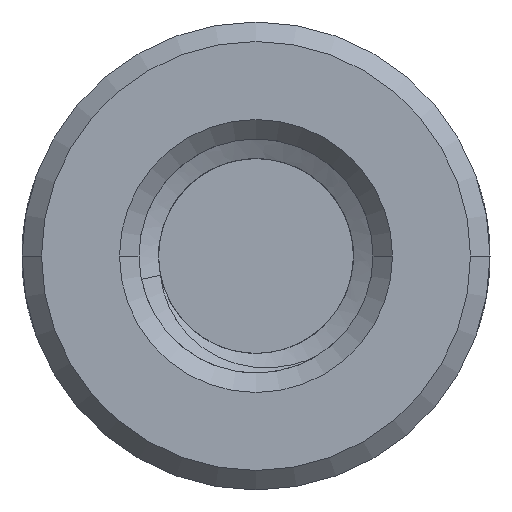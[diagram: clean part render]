
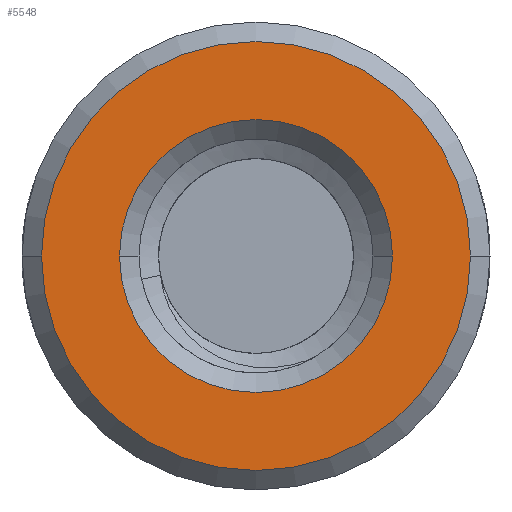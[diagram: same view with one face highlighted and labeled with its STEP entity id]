
A CAD part, front view. The second image highlights one B-rep face of the part: STEP entity #5548.
In plain terms, the highlighted planar face has unit normal (0, -1, 0).
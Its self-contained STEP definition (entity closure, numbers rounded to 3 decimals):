
#1=CARTESIAN_POINT('',(0.,0.,0.));
#2=DIRECTION('',(0.,1.,0.));
#3=DIRECTION('',(-1.,0.,0.));
#4=AXIS2_PLACEMENT_3D('',#1,#2,#3);
#6=CARTESIAN_POINT('',(0.,0.,0.));
#7=DIRECTION('',(0.,1.,0.));
#8=DIRECTION('',(1.,0.,0.));
#9=AXIS2_PLACEMENT_3D('',#6,#7,#8);
#11=CARTESIAN_POINT('',(0.,0.,0.));
#12=DIRECTION('',(0.,-1.,0.));
#13=DIRECTION('',(-1.,0.,0.));
#14=AXIS2_PLACEMENT_3D('',#11,#12,#13);
#16=CARTESIAN_POINT('',(0.,0.,0.));
#17=DIRECTION('',(0.,-1.,0.));
#18=DIRECTION('',(1.,0.,0.));
#19=AXIS2_PLACEMENT_3D('',#16,#17,#18);
#5515=CARTESIAN_POINT('',(-3.5,0.,0.));
#5516=CARTESIAN_POINT('',(3.5,0.,0.));
#5517=VERTEX_POINT('',#5515);
#5518=VERTEX_POINT('',#5516);
#5523=CARTESIAN_POINT('',(-5.5,0.,0.));
#5524=CARTESIAN_POINT('',(5.5,0.,0.));
#5525=VERTEX_POINT('',#5523);
#5526=VERTEX_POINT('',#5524);
#5531=CARTESIAN_POINT('',(0.,0.,0.));
#5532=DIRECTION('',(0.,1.,0.));
#5533=DIRECTION('',(1.,0.,0.));
#5534=AXIS2_PLACEMENT_3D('',#5531,#5532,#5533);
#5535=PLANE('',#5534);
#5537=ORIENTED_EDGE('',*,*,#5536,.F.);
#5539=ORIENTED_EDGE('',*,*,#5538,.F.);
#5540=EDGE_LOOP('',(#5537,#5539));
#5541=FACE_OUTER_BOUND('',#5540,.F.);
#5543=ORIENTED_EDGE('',*,*,#5542,.F.);
#5545=ORIENTED_EDGE('',*,*,#5544,.F.);
#5546=EDGE_LOOP('',(#5543,#5545));
#5547=FACE_BOUND('',#5546,.F.);
#5548=ADVANCED_FACE('',(#5541,#5547),#5535,.F.);
#5=CIRCLE('',#4,3.5);
#10=CIRCLE('',#9,3.5);
#15=CIRCLE('',#14,5.5);
#20=CIRCLE('',#19,5.5);
#5536=EDGE_CURVE('',#5525,#5526,#15,.T.);
#5538=EDGE_CURVE('',#5526,#5525,#20,.T.);
#5542=EDGE_CURVE('',#5517,#5518,#5,.T.);
#5544=EDGE_CURVE('',#5518,#5517,#10,.T.);
